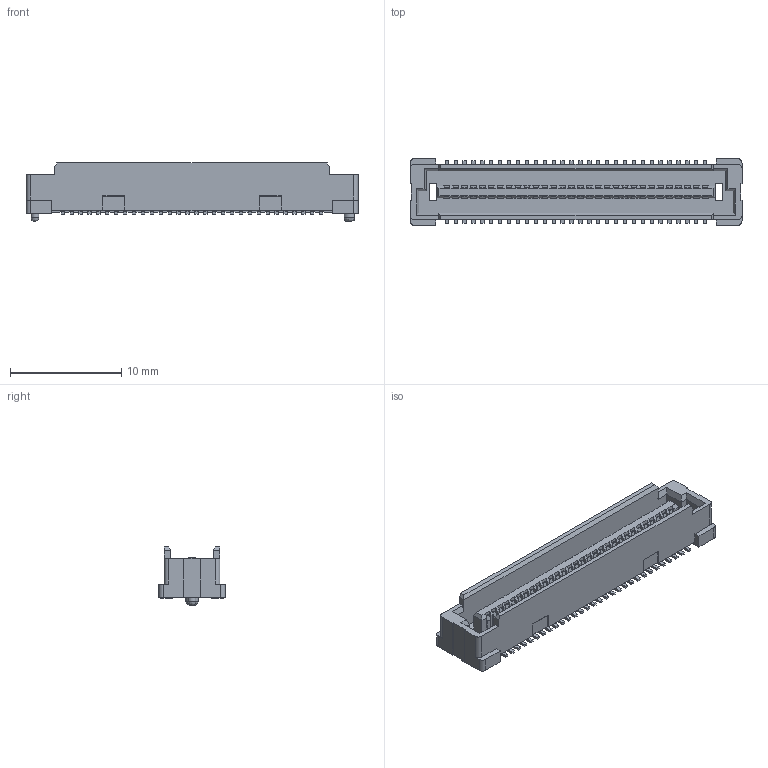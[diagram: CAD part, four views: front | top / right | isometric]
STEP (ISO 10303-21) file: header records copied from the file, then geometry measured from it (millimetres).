
FILE_DESCRIPTION(/* description */ (''),/* implementation_level */ '2;1');
FILE_NAME(/* name */ '5.0H-60P公座.stp',/* time_stamp */ '2026-06-24T16:35:06+08:00',/* author */ (''),/* organization */ (''),/* preprocessor_version */ 'ST-DEVELOPER v16',/* originating_system */ 'SIEMENS PLM Software NX 10.0',/* authorisation */ '');
FILE_SCHEMA (('AP203_CONFIGURATION_CONTROLLED_3D_DESIGN_OF_MECHANICAL_PARTS_AND_ASSEMBLIES_MIM_LF { 1 0 10303 403 2 1 2}'));
Products named in the file (1): Admi3A4C97DE2ps2
Bounding box: 29.8 x 6 x 5.25 mm (x, y, z)
Volume: 341 mm3; surface area: 1439.4 mm2
Topology: 61 solids, 61 shells, 4258 faces, 12149 edges, 7894 vertices
Faces by surface type: plane 2925, cylinder 1211, cone 120, bspline 2
Full cylindrical faces by diameter (mm): 0.7 x1
Entity records: 137738 total; most frequent: CARTESIAN_POINT 24409, ORIENTED_EDGE 24288, DIRECTION 23200, EDGE_CURVE 12144, LINE 9598, VECTOR 9598, VERTEX_POINT 7892, AXIS2_PLACEMENT_3D 6801
